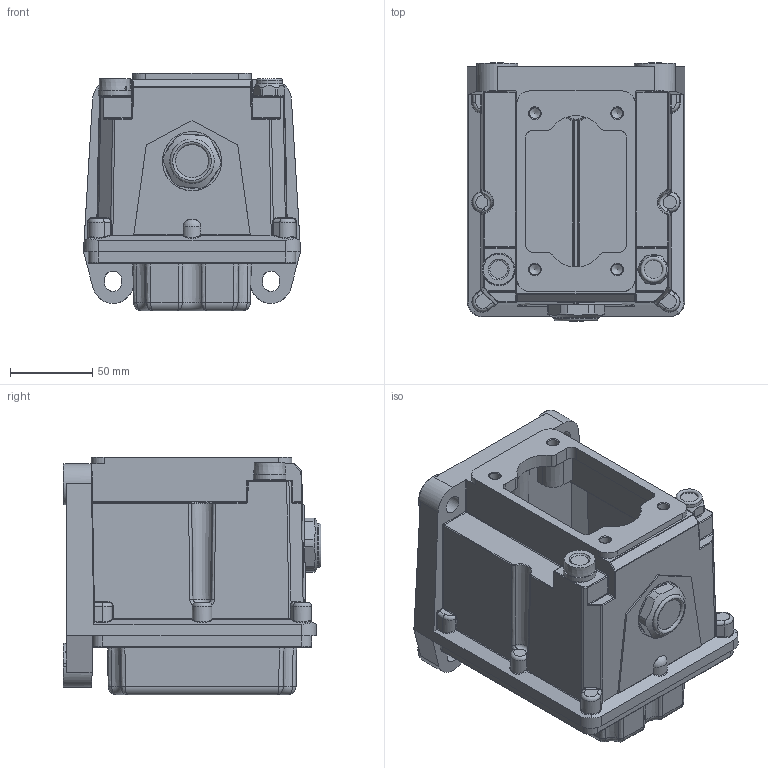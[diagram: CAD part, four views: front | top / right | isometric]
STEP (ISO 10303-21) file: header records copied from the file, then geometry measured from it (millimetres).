
FILE_DESCRIPTION(/* description */ ('Unknown'),/* implementation_level */ '2;1');
FILE_NAME(/* name */ 'SR01ALO',/* time_stamp */ '2024-11-28T08:58:57+01:00',/* author */ ('Unknown'),/* organization */ ('Unknown'),/* preprocessor_version */ 'ST-DEVELOPER v19.4',/* originating_system */ 'Solid Edge',/* authorisation */ 'Unknown');
FILE_SCHEMA (('AUTOMOTIVE_DESIGN {1 0 10303 214 3 1 1}'));
Length unit declared in the file: millimetre
Products named in the file (1): SR01ALO
Bounding box: 132 x 156.72 x 144.5 mm (x, y, z)
Volume: 481400.8 mm3; surface area: 228938.3 mm2
Topology: 1 solids, 1 shells, 1151 faces, 2874 edges, 1727 vertices
Faces by surface type: cylinder 388, plane 364, bspline 184, torus 75, cone 74, sphere 66
Full cylindrical faces by diameter (mm): 1.8 x1, 5 x8, 6 x9, 6.647 x8, 7.7 x1, 10 x8, 11 x4, 15.9 x1, 18 x2, 20 x2, 25 x2, 26.441 x1, 27 x1, 33 x1, 36 x1
Entity records: 43395 total; most frequent: CARTESIAN_POINT 9989, ORIENTED_EDGE 5332, DIRECTION 5151, EDGE_CURVE 2666, AXIS2_PLACEMENT_3D 2031, VERTEX_POINT 1659, FACE_BOUND 1303, EDGE_LOOP 1299
